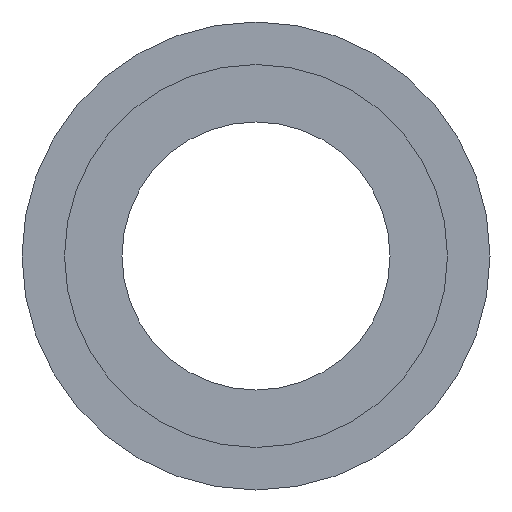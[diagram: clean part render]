
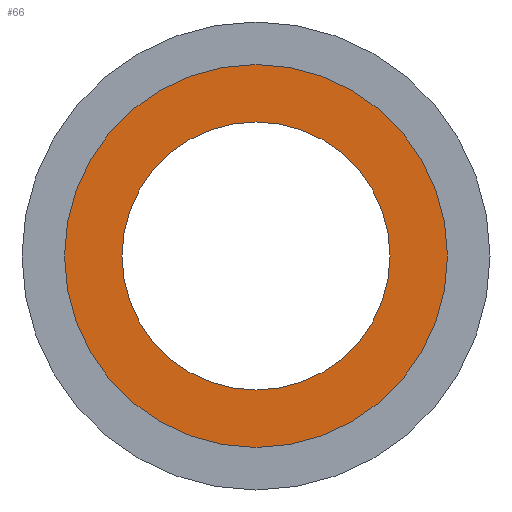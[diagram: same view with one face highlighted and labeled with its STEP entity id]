
A CAD part, left-side view. The second image highlights one B-rep face of the part: STEP entity #66.
In plain terms, the highlighted planar face has unit normal (-1, 0, 0).
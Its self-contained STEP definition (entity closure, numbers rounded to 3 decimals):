
#3 = CARTESIAN_POINT ( 'NONE',  ( 6., 0., 0. ) ) ;
#66 = ADVANCED_FACE ( 'NONE', ( #99, #250 ), #267, .F. ) ;
#68 = DIRECTION ( 'NONE',  ( 0., 0., -1. ) ) ;
#99 = FACE_BOUND ( 'NONE', #431, .T. ) ;
#113 = AXIS2_PLACEMENT_3D ( 'NONE', #3, #413, #682 ) ;
#126 = CARTESIAN_POINT ( 'NONE',  ( 6., 45., 0. ) ) ;
#129 = ORIENTED_EDGE ( 'NONE', *, *, #645, .F. ) ;
#133 = DIRECTION ( 'NONE',  ( 0., 0., 1. ) ) ;
#136 = DIRECTION ( 'NONE',  ( -1., 0., 0. ) ) ;
#138 = CARTESIAN_POINT ( 'NONE',  ( 6., 0., 0. ) ) ;
#142 = CARTESIAN_POINT ( 'NONE',  ( 6., 0., 31.5 ) ) ;
#160 = AXIS2_PLACEMENT_3D ( 'NONE', #138, #136, #133 ) ;
#165 = CIRCLE ( 'NONE', #186, 45. ) ;
#186 = AXIS2_PLACEMENT_3D ( 'NONE', #227, #223, #221 ) ;
#202 = VERTEX_POINT ( 'NONE', #289 ) ;
#221 = DIRECTION ( 'NONE',  ( 0., 0., 1. ) ) ;
#223 = DIRECTION ( 'NONE',  ( -1., 0., 0. ) ) ;
#227 = CARTESIAN_POINT ( 'NONE',  ( 6., 0., 0. ) ) ;
#250 = FACE_OUTER_BOUND ( 'NONE', #410, .T. ) ;
#266 = ORIENTED_EDGE ( 'NONE', *, *, #688, .F. ) ;
#267 = PLANE ( 'NONE',  #392 ) ;
#285 = ORIENTED_EDGE ( 'NONE', *, *, #482, .T. ) ;
#289 = CARTESIAN_POINT ( 'NONE',  ( 6., 0., -45. ) ) ;
#305 = DIRECTION ( 'NONE',  ( 1., 0., 0. ) ) ;
#314 = AXIS2_PLACEMENT_3D ( 'NONE', #626, #625, #623 ) ;
#361 = CIRCLE ( 'NONE', #113, 31.5 ) ;
#392 = AXIS2_PLACEMENT_3D ( 'NONE', #126, #305, #68 ) ;
#410 = EDGE_LOOP ( 'NONE', ( #285, #570 ) ) ;
#413 = DIRECTION ( 'NONE',  ( -1., 0., 0. ) ) ;
#431 = EDGE_LOOP ( 'NONE', ( #266, #129 ) ) ;
#481 = VERTEX_POINT ( 'NONE', #640 ) ;
#482 = EDGE_CURVE ( 'NONE', #521, #202, #578, .T. ) ;
#521 = VERTEX_POINT ( 'NONE', #541 ) ;
#537 = CIRCLE ( 'NONE', #160, 31.5 ) ;
#541 = CARTESIAN_POINT ( 'NONE',  ( 6., 0., 45. ) ) ;
#570 = ORIENTED_EDGE ( 'NONE', *, *, #616, .T. ) ;
#578 = CIRCLE ( 'NONE', #314, 45. ) ;
#616 = EDGE_CURVE ( 'NONE', #202, #521, #165, .T. ) ;
#623 = DIRECTION ( 'NONE',  ( 0., 0., 1. ) ) ;
#625 = DIRECTION ( 'NONE',  ( -1., 0., 0. ) ) ;
#626 = CARTESIAN_POINT ( 'NONE',  ( 6., 0., 0. ) ) ;
#640 = CARTESIAN_POINT ( 'NONE',  ( 6., 0., -31.5 ) ) ;
#645 = EDGE_CURVE ( 'NONE', #481, #646, #537, .T. ) ;
#646 = VERTEX_POINT ( 'NONE', #142 ) ;
#682 = DIRECTION ( 'NONE',  ( 0., 0., 1. ) ) ;
#688 = EDGE_CURVE ( 'NONE', #646, #481, #361, .T. ) ;
